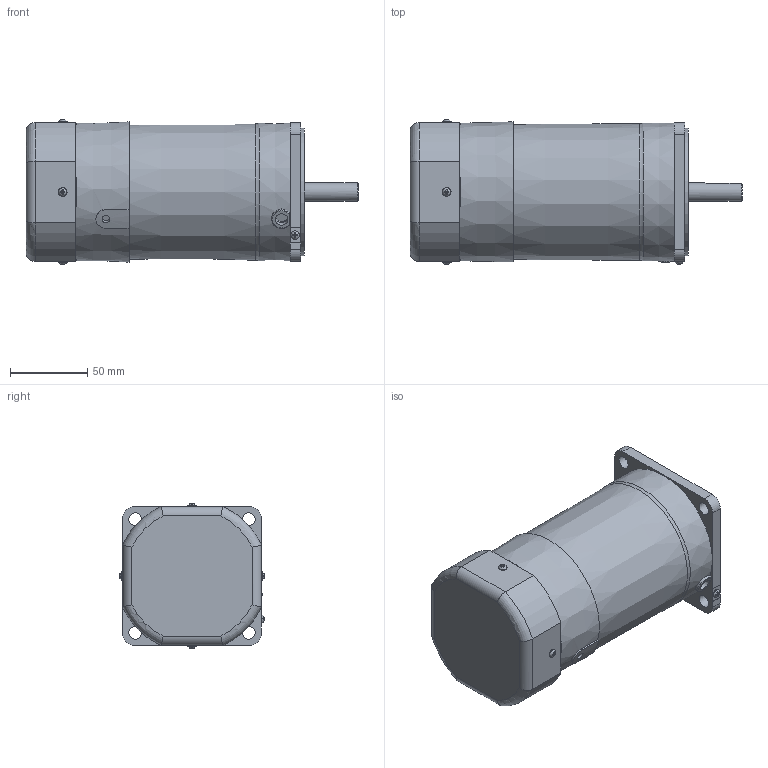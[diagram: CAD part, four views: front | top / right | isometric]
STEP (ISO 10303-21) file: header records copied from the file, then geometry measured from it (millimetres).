
FILE_DESCRIPTION(/* description */ (''),/* implementation_level */ '2;1');
FILE_NAME(/* name */ 'E:\도면작업\2016\0704) 미주향 SG 도면\3D MOTOR\ELECTROMAGNETIC BRAKE\SG9R(I)90K_-E.stp',/* time_stamp */ '2017-03-21T15:21:21+09:00',/* author */ ('jy-jung'),/* organization */ (''),/* preprocessor_version */ 'ST-DEVELOPER v15.6',/* originating_system */ 'Autodesk Inventor 2015',/* authorisation */ '');
FILE_SCHEMA (('AUTOMOTIVE_DESIGN { 1 0 10303 214 3 1 1 }'));
Length unit declared in the file: millimetre
Products named in the file (1): 부품23
Bounding box: 215.3 x 93.89 x 93.89 mm (x, y, z)
Volume: 1141133.2 mm3; surface area: 74810.7 mm2
Topology: 1 solids, 6 shells, 233 faces, 600 edges, 396 vertices
Faces by surface type: plane 149, cylinder 56, torus 14, cone 8, bspline 5, sphere 1
Full cylindrical faces by diameter (mm): 3 x4, 3.5 x4, 5 x1, 5.6 x5, 8 x1, 8.5 x4, 10 x1, 12 x1, 40 x1, 83 x1, 86 x1
Entity records: 7631 total; most frequent: CARTESIAN_POINT 1956, ORIENTED_EDGE 1094, DIRECTION 1053, EDGE_CURVE 547, VERTEX_POINT 384, AXIS2_PLACEMENT_3D 372, LINE 309, VECTOR 309
